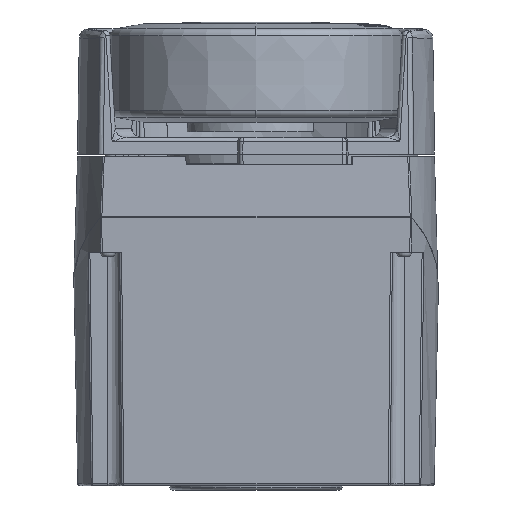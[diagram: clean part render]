
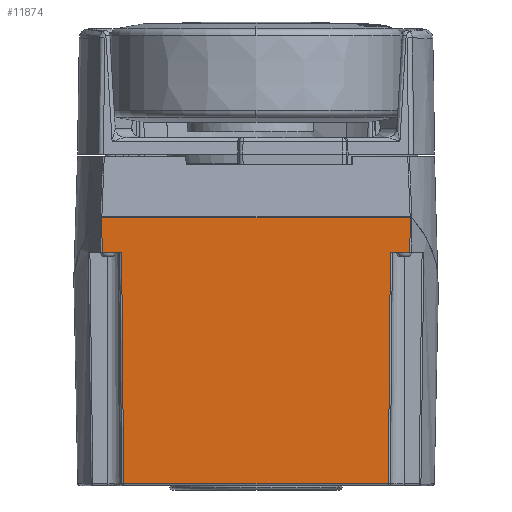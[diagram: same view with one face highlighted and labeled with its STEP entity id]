
A CAD part, front view. The second image highlights one B-rep face of the part: STEP entity #11874.
In plain terms, the highlighted planar face has unit normal (0, -1, -0.012).
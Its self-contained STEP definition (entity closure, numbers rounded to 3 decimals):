
#124 = EDGE_CURVE ( 'NONE', #29046, #4890, #43998, .T. ) ;
#1807 = CARTESIAN_POINT ( 'NONE',  ( -68.5, -48.422, -49. ) ) ;
#2425 = CARTESIAN_POINT ( 'NONE',  ( -78.576, -48.6, -34.042 ) ) ;
#4039 = EDGE_CURVE ( 'NONE', #23532, #46863, #30594, .T. ) ;
#4238 = VERTEX_POINT ( 'NONE', #23529 ) ;
#4498 = EDGE_CURVE ( 'NONE', #15387, #4890, #5244, .T. ) ;
#4890 = VERTEX_POINT ( 'NONE', #20148 ) ;
#5244 = LINE ( 'NONE', #10320, #15272 ) ;
#5745 = CARTESIAN_POINT ( 'NONE',  ( 79.158, -48.422, -49. ) ) ;
#5885 = CARTESIAN_POINT ( 'NONE',  ( 79.158, -48.638, -30.853 ) ) ;
#6189 = CARTESIAN_POINT ( 'NONE',  ( -78.603, -48.636, -31.053 ) ) ;
#7155 = CARTESIAN_POINT ( 'NONE',  ( 78.494, -48.493, -43.014 ) ) ;
#7592 = ORIENTED_EDGE ( 'NONE', *, *, #14861, .F. ) ;
#8210 = LINE ( 'NONE', #38236, #28249 ) ;
#9460 = ORIENTED_EDGE ( 'NONE', *, *, #124, .T. ) ;
#9797 = VECTOR ( 'NONE', #46910, 1000. ) ;
#9982 = CARTESIAN_POINT ( 'NONE',  ( -78.549, -48.564, -37.032 ) ) ;
#10320 = CARTESIAN_POINT ( 'NONE',  ( -93.073, -48.636, -31.053 ) ) ;
#10688 = CARTESIAN_POINT ( 'NONE',  ( 78.44, -48.422, -49. ) ) ;
#10956 = EDGE_CURVE ( 'NONE', #17275, #20016, #43710, .T. ) ;
#11448 = CARTESIAN_POINT ( 'NONE',  ( 68.5, -48.422, -48.991 ) ) ;
#11874 = ADVANCED_FACE ( 'NONE', ( #30810 ), #47172, .T. ) ;
#12840 = AXIS2_PLACEMENT_3D ( 'NONE', #5885, #39737, #17254 ) ;
#13778 = CARTESIAN_POINT ( 'NONE',  ( -78.494, -48.493, -43.014 ) ) ;
#14574 = EDGE_CURVE ( 'NONE', #29046, #20016, #27685, .T. ) ;
#14861 = EDGE_CURVE ( 'NONE', #23532, #4238, #8210, .T. ) ;
#15272 = VECTOR ( 'NONE', #32868, 1000. ) ;
#15387 = VERTEX_POINT ( 'NONE', #28101 ) ;
#16494 = CARTESIAN_POINT ( 'NONE',  ( 78.549, -48.564, -37.032 ) ) ;
#17254 = DIRECTION ( 'NONE',  ( -1., 0., 0. ) ) ;
#17275 = VERTEX_POINT ( 'NONE', #46324 ) ;
#17574 = CARTESIAN_POINT ( 'NONE',  ( -78.44, -48.422, -49. ) ) ;
#18604 = ORIENTED_EDGE ( 'NONE', *, *, #14574, .F. ) ;
#20016 = VERTEX_POINT ( 'NONE', #37926 ) ;
#20148 = CARTESIAN_POINT ( 'NONE',  ( 78.603, -48.636, -31.053 ) ) ;
#20584 = CARTESIAN_POINT ( 'NONE',  ( 78.467, -48.457, -46.007 ) ) ;
#20869 = DIRECTION ( 'NONE',  ( -1., 0., 0. ) ) ;
#21227 = ORIENTED_EDGE ( 'NONE', *, *, #38574, .T. ) ;
#22651 = DIRECTION ( 'NONE',  ( 0.009, -0.012, 1. ) ) ;
#23529 = CARTESIAN_POINT ( 'NONE',  ( -78.44, -48.422, -49. ) ) ;
#23532 = VERTEX_POINT ( 'NONE', #1807 ) ;
#24908 = VECTOR ( 'NONE', #22651, 1000. ) ;
#24972 = CARTESIAN_POINT ( 'NONE',  ( -67.47, -47.012, -167.012 ) ) ;
#25078 = B_SPLINE_CURVE_WITH_KNOTS ( 'NONE', 3,
 ( #6189, #2425, #9982, #36296, #13778, #40069, #17574 ),
 .UNSPECIFIED., .F., .F.,
 ( 4, 3, 4 ),
 ( 0., 0.009, 0.018 ),
 .UNSPECIFIED. ) ;
#25524 = EDGE_CURVE ( 'NONE', #46863, #17275, #38602, .T. ) ;
#26505 = VECTOR ( 'NONE', #20869, 1000. ) ;
#27685 = LINE ( 'NONE', #5745, #26505 ) ;
#27733 = ORIENTED_EDGE ( 'NONE', *, *, #4039, .T. ) ;
#27993 = CARTESIAN_POINT ( 'NONE',  ( 68.462, -47.012, -167.012 ) ) ;
#28101 = CARTESIAN_POINT ( 'NONE',  ( -78.603, -48.636, -31.053 ) ) ;
#28249 = VECTOR ( 'NONE', #42010, 1000. ) ;
#29046 = VERTEX_POINT ( 'NONE', #10688 ) ;
#29422 = VECTOR ( 'NONE', #40642, 1000. ) ;
#29867 = CARTESIAN_POINT ( 'NONE',  ( 78.522, -48.529, -40.021 ) ) ;
#30146 = CARTESIAN_POINT ( 'NONE',  ( 78.44, -48.422, -49. ) ) ;
#30594 = LINE ( 'NONE', #33086, #29422 ) ;
#30810 = FACE_OUTER_BOUND ( 'NONE', #43918, .T. ) ;
#31433 = ORIENTED_EDGE ( 'NONE', *, *, #10956, .T. ) ;
#32868 = DIRECTION ( 'NONE',  ( 1., 0., 0. ) ) ;
#33086 = CARTESIAN_POINT ( 'NONE',  ( -68.647, -48.623, -32.143 ) ) ;
#34002 = ORIENTED_EDGE ( 'NONE', *, *, #4498, .F. ) ;
#34461 = CARTESIAN_POINT ( 'NONE',  ( 78.576, -48.6, -34.042 ) ) ;
#36296 = CARTESIAN_POINT ( 'NONE',  ( -78.522, -48.529, -40.021 ) ) ;
#37826 = ORIENTED_EDGE ( 'NONE', *, *, #25524, .T. ) ;
#37926 = CARTESIAN_POINT ( 'NONE',  ( 68.5, -48.422, -49. ) ) ;
#38236 = CARTESIAN_POINT ( 'NONE',  ( 79.158, -48.422, -49. ) ) ;
#38574 = EDGE_CURVE ( 'NONE', #15387, #4238, #25078, .T. ) ;
#38602 = LINE ( 'NONE', #27993, #9797 ) ;
#39737 = DIRECTION ( 'NONE',  ( 0., -1., -0.012 ) ) ;
#40069 = CARTESIAN_POINT ( 'NONE',  ( -78.467, -48.457, -46.007 ) ) ;
#40396 = CARTESIAN_POINT ( 'NONE',  ( 78.603, -48.636, -31.053 ) ) ;
#40642 = DIRECTION ( 'NONE',  ( 0.009, 0.012, -1. ) ) ;
#42010 = DIRECTION ( 'NONE',  ( -1., 0., 0. ) ) ;
#43710 = LINE ( 'NONE', #11448, #24908 ) ;
#43918 = EDGE_LOOP ( 'NONE', ( #7592, #27733, #37826, #31433, #18604, #9460, #34002, #21227 ) ) ;
#43998 = B_SPLINE_CURVE_WITH_KNOTS ( 'NONE', 3,
 ( #30146, #20584, #7155, #29867, #16494, #34461, #40396 ),
 .UNSPECIFIED., .F., .F.,
 ( 4, 3, 4 ),
 ( 0., 0.009, 0.018 ),
 .UNSPECIFIED. ) ;
#46324 = CARTESIAN_POINT ( 'NONE',  ( 67.47, -47.012, -167.012 ) ) ;
#46863 = VERTEX_POINT ( 'NONE', #24972 ) ;
#46910 = DIRECTION ( 'NONE',  ( 1., 0., 0. ) ) ;
#47172 = PLANE ( 'NONE',  #12840 ) ;
